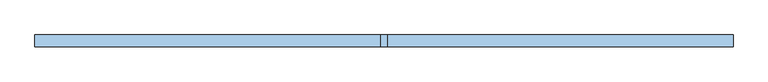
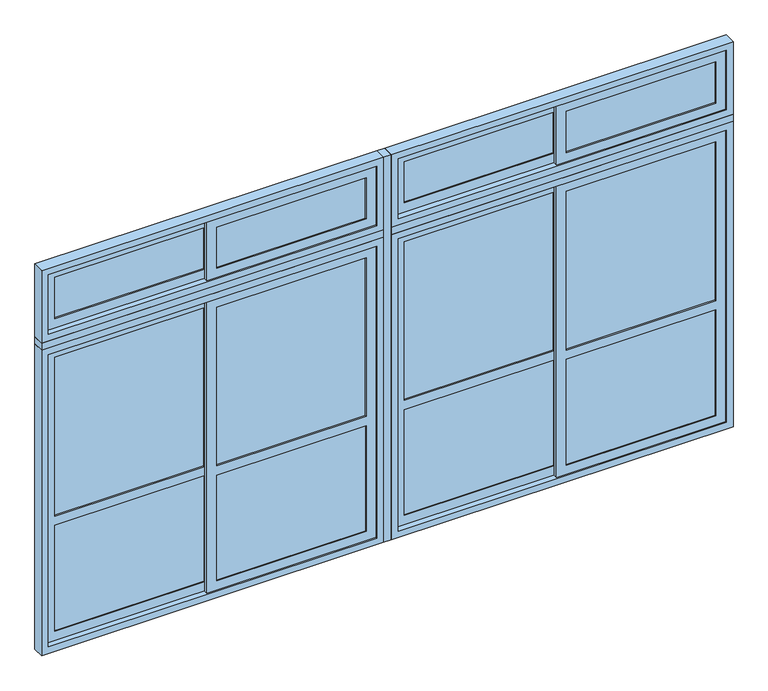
"""IFC4 building model written with IfcOpenShell, lengths in millimetres: window geometry, A11 Ventana_Corrediza_PC_4 hojas : A11.1 Ventana_Corrediza_PC_4 hojas 450x265."""

from ifc_helpers import new_model, si_unit, frame, origin, origin_with_axes, place, context, project, spatial, polyline, outline, extrude, source, transform, mapped, element, save


def window_fbff9aea(model_context):
    return source(origin(), model_context, "Body", "SweptSolid", [
        extrude(outline(polyline([(-1169.0, -28.0), (-1169.0, -44.0), (-2142.0, -44.0), (-2142.0, -28.0), (-1169.0, -28.0)])), frame((0.0, 0.0, 108.0), z_axis=(0.0, 0.0, 1.0), x_axis=(1.0, 0.0, 0.0)), (0.0, 0.0, 1.0), 728.0),
        extrude(outline(polyline([(-133.0, -56.0), (-133.0, -72.0), (-1106.0, -72.0), (-1106.0, -56.0), (-133.0, -56.0)])), frame((0.0, 0.0, 108.0), z_axis=(0.0, 0.0, 1.0), x_axis=(1.0, 0.0, 0.0)), (0.0, 0.0, 1.0), 728.0),
        extrude(outline(polyline([(-1169.0, -31.5769719), (-1169.0, -40.4230281), (-2142.0, -40.4230281), (-2142.0, -31.5769719), (-1169.0, -31.5769719)])), frame((0.0, 0.0, 900.0), z_axis=(0.0, 0.0, 1.0), x_axis=(1.0, 0.0, 0.0)), (0.0, 0.0, 1.0), 1092.0),
        extrude(outline(polyline([(-1169.0, -31.5769719), (-1169.0, -40.4230281), (-2142.0, -40.4230281), (-2142.0, -31.5769719), (-1169.0, -31.5769719)])), frame((0.0, 0.0, 2258.0), z_axis=(0.0, 0.0, 1.0), x_axis=(1.0, 0.0, 0.0)), (0.0, 0.0, 1.0), 284.0),
        extrude(outline(polyline([(-133.0, -59.5769719), (-133.0, -68.4230281), (-1106.0, -68.4230281), (-1106.0, -59.5769719), (-133.0, -59.5769719)])), frame((0.0, 0.0, 900.0), z_axis=(0.0, 0.0, 1.0), x_axis=(1.0, 0.0, 0.0)), (0.0, 0.0, 1.0), 1092.0),
        extrude(outline(polyline([(-133.0, -59.5769719), (-133.0, -68.4230281), (-1106.0, -68.4230281), (-1106.0, -59.5769719), (-133.0, -59.5769719)])), frame((0.0, 0.0, 2258.0), z_axis=(0.0, 0.0, 1.0), x_axis=(1.0, 0.0, 0.0)), (0.0, 0.0, 1.0), 284.0),
        extrude(outline(polyline([(2055.0, -2205.0), (45.0, -2205.0), (45.0, -1106.0), (2055.0, -1106.0), (2055.0, -2205.0)]), holes=[polyline([(1992.0, -2142.0), (1992.0, -1169.0), (900.0, -1169.0), (900.0, -2142.0), (1992.0, -2142.0)]), polyline([(836.0, -2142.0), (836.0, -1169.0), (108.0, -1169.0), (108.0, -2142.0), (836.0, -2142.0)])]), frame((0.0, -50.0, 0.0), z_axis=(0.0, 1.0, 0.0), x_axis=(0.0, 0.0, 1.0)), (0.0, 0.0, 1.0), 28.0),
        extrude(outline(polyline([(2605.0, -2205.0), (2195.0, -2205.0), (2195.0, -1106.0), (2605.0, -1106.0), (2605.0, -2205.0)]), holes=[polyline([(2542.0, -2142.0), (2542.0, -1169.0), (2258.0, -1169.0), (2258.0, -2142.0), (2542.0, -2142.0)])]), frame((0.0, -50.0, 0.0), z_axis=(0.0, 1.0, 0.0), x_axis=(0.0, 0.0, 1.0)), (0.0, 0.0, 1.0), 28.0),
        extrude(outline(polyline([(2055.0, -1169.0), (45.0, -1169.0), (45.0, -70.0), (2055.0, -70.0), (2055.0, -1169.0)]), holes=[polyline([(1992.0, -1106.0), (1992.0, -133.0), (900.0, -133.0), (900.0, -1106.0), (1992.0, -1106.0)]), polyline([(836.0, -1106.0), (836.0, -133.0), (108.0, -133.0), (108.0, -1106.0), (836.0, -1106.0)])]), frame((0.0, -78.0, 0.0), z_axis=(0.0, 1.0, 0.0), x_axis=(0.0, 0.0, 1.0)), (0.0, 0.0, 1.0), 28.0),
        extrude(outline(polyline([(2605.0, -1169.0), (2195.0, -1169.0), (2195.0, -70.0), (2605.0, -70.0), (2605.0, -1169.0)]), holes=[polyline([(2542.0, -1106.0), (2542.0, -133.0), (2258.0, -133.0), (2258.0, -1106.0), (2542.0, -1106.0)])]), frame((0.0, -78.0, 0.0), z_axis=(0.0, 1.0, 0.0), x_axis=(0.0, 0.0, 1.0)), (0.0, 0.0, 1.0), 28.0),
        extrude(outline(polyline([(1106.0, -28.0), (1106.0, -44.0), (133.0, -44.0), (133.0, -28.0), (1106.0, -28.0)])), frame((0.0, 0.0, 108.0), z_axis=(0.0, 0.0, 1.0), x_axis=(1.0, 0.0, 0.0)), (0.0, 0.0, 1.0), 728.0),
        extrude(outline(polyline([(2142.0, -56.0), (2142.0, -72.0), (1169.0, -72.0), (1169.0, -56.0), (2142.0, -56.0)])), frame((0.0, 0.0, 108.0), z_axis=(0.0, 0.0, 1.0), x_axis=(1.0, 0.0, 0.0)), (0.0, 0.0, 1.0), 728.0),
        extrude(outline(polyline([(1106.0, -31.5769719), (1106.0, -40.4230281), (133.0, -40.4230281), (133.0, -31.5769719), (1106.0, -31.5769719)])), frame((0.0, 0.0, 900.0), z_axis=(0.0, 0.0, 1.0), x_axis=(1.0, 0.0, 0.0)), (0.0, 0.0, 1.0), 1092.0),
        extrude(outline(polyline([(1106.0, -31.5769719), (1106.0, -40.4230281), (133.0, -40.4230281), (133.0, -31.5769719), (1106.0, -31.5769719)])), frame((0.0, 0.0, 2258.0), z_axis=(0.0, 0.0, 1.0), x_axis=(1.0, 0.0, 0.0)), (0.0, 0.0, 1.0), 284.0),
        extrude(outline(polyline([(2142.0, -59.5769719), (2142.0, -68.4230281), (1169.0, -68.4230281), (1169.0, -59.5769719), (2142.0, -59.5769719)])), frame((0.0, 0.0, 900.0), z_axis=(0.0, 0.0, 1.0), x_axis=(1.0, 0.0, 0.0)), (0.0, 0.0, 1.0), 1092.0),
        extrude(outline(polyline([(2142.0, -59.5769719), (2142.0, -68.4230281), (1169.0, -68.4230281), (1169.0, -59.5769719), (2142.0, -59.5769719)])), frame((0.0, 0.0, 2258.0), z_axis=(0.0, 0.0, 1.0), x_axis=(1.0, 0.0, 0.0)), (0.0, 0.0, 1.0), 284.0),
        extrude(outline(polyline([(45.0, 70.0), (45.0, 1169.0), (2055.0, 1169.0), (2055.0, 70.0), (45.0, 70.0)]), holes=[polyline([(900.0, 133.0), (1992.0, 133.0), (1992.0, 1106.0), (900.0, 1106.0), (900.0, 133.0)]), polyline([(108.0, 133.0), (836.0, 133.0), (836.0, 1106.0), (108.0, 1106.0), (108.0, 133.0)])]), frame((0.0, -50.0, 0.0), z_axis=(0.0, 1.0, 0.0), x_axis=(0.0, 0.0, 1.0)), (0.0, 0.0, 1.0), 28.0),
        extrude(outline(polyline([(2605.0, 70.0), (2195.0, 70.0), (2195.0, 1169.0), (2605.0, 1169.0), (2605.0, 70.0)]), holes=[polyline([(2258.0, 133.0), (2542.0, 133.0), (2542.0, 1106.0), (2258.0, 1106.0), (2258.0, 133.0)])]), frame((0.0, -50.0, 0.0), z_axis=(0.0, 1.0, 0.0), x_axis=(0.0, 0.0, 1.0)), (0.0, 0.0, 1.0), 28.0),
        extrude(outline(polyline([(2055.0, 2205.0), (2055.0, 1106.0), (45.0, 1106.0), (45.0, 2205.0), (2055.0, 2205.0)]), holes=[polyline([(1992.0, 1169.0), (1992.0, 2142.0), (900.0, 2142.0), (900.0, 1169.0), (1992.0, 1169.0)]), polyline([(836.0, 1169.0), (836.0, 2142.0), (108.0, 2142.0), (108.0, 1169.0), (836.0, 1169.0)])]), frame((0.0, -78.0, 0.0), z_axis=(0.0, 1.0, 0.0), x_axis=(0.0, 0.0, 1.0)), (0.0, 0.0, 1.0), 28.0),
        extrude(outline(polyline([(2195.0, 1106.0), (2195.0, 2205.0), (2605.0, 2205.0), (2605.0, 1106.0), (2195.0, 1106.0)]), holes=[polyline([(2542.0, 1169.0), (2542.0, 2142.0), (2258.0, 2142.0), (2258.0, 1169.0), (2542.0, 1169.0)])]), frame((0.0, -78.0, 0.0), z_axis=(0.0, 1.0, 0.0), x_axis=(0.0, 0.0, 1.0)), (0.0, 0.0, 1.0), 28.0),
        extrude(outline(polyline([(2100.0, 25.0), (0.0, 25.0), (0.0, 2250.0), (2100.0, 2250.0), (2100.0, 25.0)]), holes=[polyline([(2055.0, 70.0), (2055.0, 2205.0), (45.0, 2205.0), (45.0, 70.0), (2055.0, 70.0)])]), frame((0.0, -87.5, 0.0), z_axis=(0.0, 1.0, 0.0), x_axis=(0.0, 0.0, 1.0)), (0.0, 0.0, 1.0), 75.0),
        extrude(outline(polyline([(2100.0, -2250.0), (0.0, -2250.0), (0.0, -25.0), (2100.0, -25.0), (2100.0, -2250.0)]), holes=[polyline([(2055.0, -2205.0), (2055.0, -70.0), (45.0, -70.0), (45.0, -2205.0), (2055.0, -2205.0)])]), frame((0.0, -87.5, 0.0), z_axis=(0.0, 1.0, 0.0), x_axis=(0.0, 0.0, 1.0)), (0.0, 0.0, 1.0), 75.0),
        extrude(outline(polyline([(2150.0, -2250.0), (2150.0, -25.0), (2650.0, -25.0), (2650.0, -2250.0), (2150.0, -2250.0)]), holes=[polyline([(2605.0, -2205.0), (2605.0, -70.0), (2195.0, -70.0), (2195.0, -2205.0), (2605.0, -2205.0)])]), frame((0.0, -87.5, 0.0), z_axis=(0.0, 1.0, 0.0), x_axis=(0.0, 0.0, 1.0)), (0.0, 0.0, 1.0), 75.0),
        extrude(outline(polyline([(2650.0, 25.0), (2150.0, 25.0), (2150.0, 2250.0), (2650.0, 2250.0), (2650.0, 25.0)]), holes=[polyline([(2605.0, 70.0), (2605.0, 2205.0), (2195.0, 2205.0), (2195.0, 70.0), (2605.0, 70.0)])]), frame((0.0, -87.5, 0.0), z_axis=(0.0, 1.0, 0.0), x_axis=(0.0, 0.0, 1.0)), (0.0, 0.0, 1.0), 75.0),
        extrude(outline(polyline([(2250.0, -12.5), (2250.0, -87.5), (25.0, -87.5), (25.0, -12.5), (2250.0, -12.5)])), frame((0.0, 0.0, 2100.0), z_axis=(0.0, 0.0, 1.0), x_axis=(1.0, 0.0, 0.0)), (0.0, 0.0, 1.0), 50.0),
        extrude(outline(polyline([(-25.0, -12.5), (-25.0, -87.5), (-2250.0, -87.5), (-2250.0, -12.5), (-25.0, -12.5)])), frame((0.0, 0.0, 2100.0), z_axis=(0.0, 0.0, 1.0), x_axis=(1.0, 0.0, 0.0)), (0.0, 0.0, 1.0), 50.0),
        extrude(outline(polyline([(25.0, -12.5), (25.0, -87.5), (-25.0, -87.5), (-25.0, -12.5), (25.0, -12.5)])), origin_with_axes(), (0.0, 0.0, 1.0), 2650.0),
    ])


if __name__ == "__main__":
    model = new_model("IFC4")
    model_context = context("Model", 3, world=origin())
    ifc_project = project(units=[si_unit("LENGTHUNIT", "METRE", prefix="MILLI")], contexts=[model_context])
    site = spatial("IfcSite", under=ifc_project)
    building = spatial("IfcBuilding", under=site)
    placement = place(None, origin())
    window_shape = window_fbff9aea(model_context)
    element("IfcWindow", 1, ObjectType="A11 Ventana_Corrediza_PC_4 hojas : A11.1 Ventana_Corrediza_PC_4 hojas 450x265", at=placement, inside=building, context=model_context, shape_type="MappedRepresentation", body=[
        mapped(window_shape, transform((0.0, 0.0, 0.0), x_axis=(1.0, 0.0, 0.0), y_axis=(0.0, 1.0, 0.0), z_axis=(0.0, 0.0, 1.0))),
    ])
    save(model, "model.ifc")
